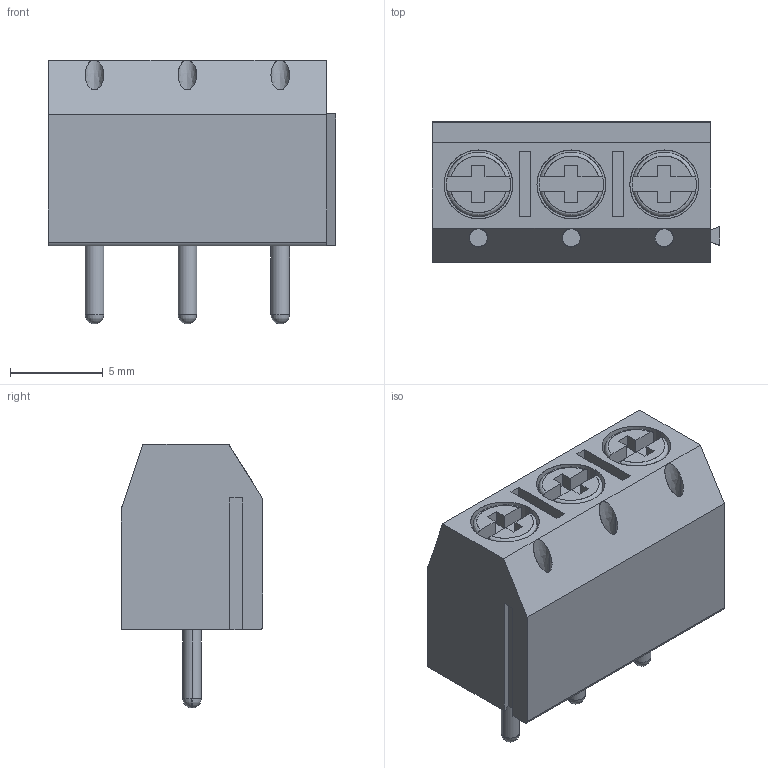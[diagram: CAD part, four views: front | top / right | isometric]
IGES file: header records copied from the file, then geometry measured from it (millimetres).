
Start section: SolidWorks IGES file using analytic representation for surfaces
Global section: file name: D:\OneDrive\00_MOITECH\01_Projects\2020\Metaltex\Modeling\Componentes\BR1\\_Dn\BR103.IGS; native system: SolidWorks 2019; preprocessor: SolidWorks 2019; author: Alan; date: 200220.004928; units: millimetre
Bounding box: 15.5 x 7.6 x 14.2 mm (x, y, z)
Surface area: 1175.5 mm2 (no closed solid volume)
Topology: 0 solids, 0 shells, 181 faces, 1686 edges, 1677 vertices
Faces by surface type: bspline 126, revolution 55
